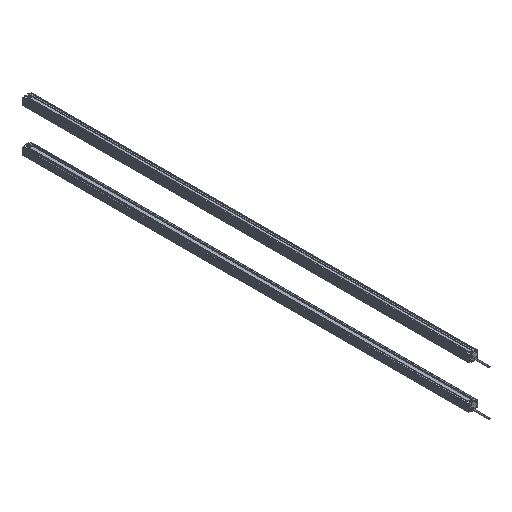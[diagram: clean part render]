
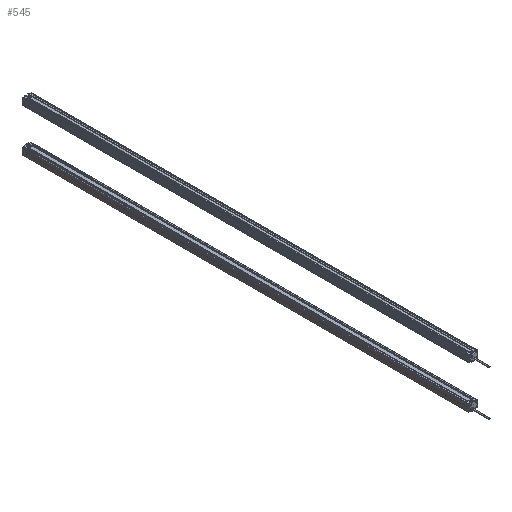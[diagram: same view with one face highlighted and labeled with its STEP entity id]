
A CAD part, isometric view. The second image highlights one B-rep face of the part: STEP entity #545.
In plain terms, the highlighted planar face has unit normal (-1, 0, 0).
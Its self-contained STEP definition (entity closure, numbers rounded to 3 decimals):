
#47 = EDGE_LOOP ( 'NONE', ( #8426, #7009, #2868, #3222 ) ) ;
#225 = VECTOR ( 'NONE', #7557, 1000. ) ;
#287 = FACE_OUTER_BOUND ( 'NONE', #47, .T. ) ;
#304 = CARTESIAN_POINT ( 'NONE',  ( -12.5, -1240., -9.2 ) ) ;
#509 = EDGE_CURVE ( 'NONE', #1029, #10491, #5492, .T. ) ;
#545 = ADVANCED_FACE ( 'NONE', ( #287 ), #7893, .T. ) ;
#709 = CARTESIAN_POINT ( 'NONE',  ( -12.5, 0., 8.293 ) ) ;
#1029 = VERTEX_POINT ( 'NONE', #5642 ) ;
#1981 = EDGE_CURVE ( 'NONE', #10374, #1029, #8980, .T. ) ;
#2663 = DIRECTION ( 'NONE',  ( 0., 0., 1. ) ) ;
#2868 = ORIENTED_EDGE ( 'NONE', *, *, #2884, .T. ) ;
#2884 = EDGE_CURVE ( 'NONE', #10374, #6933, #7284, .T. ) ;
#3222 = ORIENTED_EDGE ( 'NONE', *, *, #8214, .T. ) ;
#3455 = CARTESIAN_POINT ( 'NONE',  ( -12.5, -1240., -9.2 ) ) ;
#3535 = DIRECTION ( 'NONE',  ( 0., 1., 0. ) ) ;
#4659 = AXIS2_PLACEMENT_3D ( 'NONE', #304, #7935, #6975 ) ;
#4775 = DIRECTION ( 'NONE',  ( 0., 1., 0. ) ) ;
#5055 = CARTESIAN_POINT ( 'NONE',  ( -12.5, 0., -9.2 ) ) ;
#5492 = LINE ( 'NONE', #5055, #10174 ) ;
#5523 = CARTESIAN_POINT ( 'NONE',  ( -12.5, -1240., 8.293 ) ) ;
#5642 = CARTESIAN_POINT ( 'NONE',  ( -12.5, 0., -9.2 ) ) ;
#6096 = CARTESIAN_POINT ( 'NONE',  ( -12.5, -1240., -9.2 ) ) ;
#6226 = VECTOR ( 'NONE', #3535, 1000. ) ;
#6933 = VERTEX_POINT ( 'NONE', #5523 ) ;
#6975 = DIRECTION ( 'NONE',  ( 0., 0., 1. ) ) ;
#7009 = ORIENTED_EDGE ( 'NONE', *, *, #1981, .F. ) ;
#7284 = LINE ( 'NONE', #3455, #225 ) ;
#7440 = CARTESIAN_POINT ( 'NONE',  ( -12.5, -1240., -9.2 ) ) ;
#7557 = DIRECTION ( 'NONE',  ( 0., 0., 1. ) ) ;
#7619 = VECTOR ( 'NONE', #4775, 1000. ) ;
#7893 = PLANE ( 'NONE',  #4659 ) ;
#7935 = DIRECTION ( 'NONE',  ( -1., 0., 0. ) ) ;
#8214 = EDGE_CURVE ( 'NONE', #6933, #10491, #9434, .T. ) ;
#8426 = ORIENTED_EDGE ( 'NONE', *, *, #509, .F. ) ;
#8980 = LINE ( 'NONE', #6096, #6226 ) ;
#9434 = LINE ( 'NONE', #9795, #7619 ) ;
#9795 = CARTESIAN_POINT ( 'NONE',  ( -12.5, -1240., 8.293 ) ) ;
#10174 = VECTOR ( 'NONE', #2663, 1000. ) ;
#10374 = VERTEX_POINT ( 'NONE', #7440 ) ;
#10491 = VERTEX_POINT ( 'NONE', #709 ) ;
